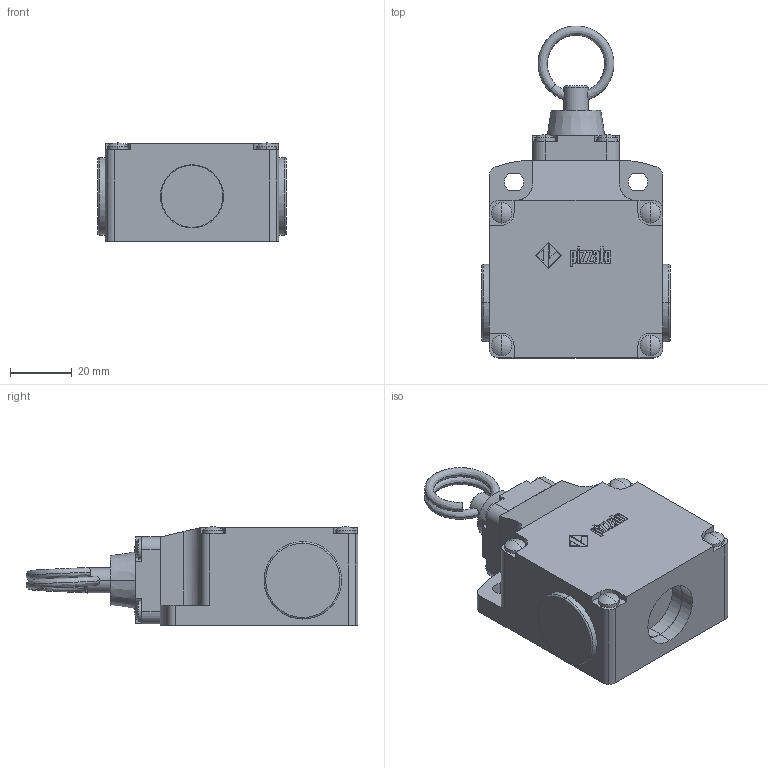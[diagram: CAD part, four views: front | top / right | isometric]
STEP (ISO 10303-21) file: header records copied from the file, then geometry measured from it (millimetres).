
FILE_DESCRIPTION (( 'STEP AP214' ), '1' );
FILE_NAME ('ZF_STEP_FL_x76_A10.step', '2014-04-10T09:06:54', ( 'utente' ), ( 'Microsoft' ), 'SwSTEP 2.0', 'SolidWorks 2013', '' );
FILE_SCHEMA (( 'AUTOMOTIVE_DESIGN' ));
Length unit declared in the file: millimetre
Products named in the file (6): ZF_STEP_VF_T76_A10; Pizzato_T76; Pizzato_Supporto_T76; Pizzato_Tappo_Protezione_PG13_M20_PG13; Pizzato_Custodia_FL; ZF_STEP_FL_x76_A10
Assembly tree (6 placements, depth 3):
  ZF_STEP_FL_x76_A10
    Pizzato_Custodia_FL
    Pizzato_Tappo_Protezione_PG13_M20_PG13  x2
    ZF_STEP_VF_T76_A10
      Pizzato_Supporto_T76
      Pizzato_T76
Bounding box: 60.8 x 107.15 x 31.8 mm (x, y, z)
Volume: 108579.9 mm3; surface area: 25401.6 mm2
Topology: 5 solids, 5 shells, 456 faces, 1170 edges, 774 vertices
Faces by surface type: plane 261, cylinder 94, bspline 77, sphere 16, torus 4, cone 4
Entity records: 17978 total; most frequent: CARTESIAN_POINT 7178, ORIENTED_EDGE 2308, DIRECTION 1962, EDGE_CURVE 1154, LINE 786, VECTOR 786, VERTEX_POINT 764, AXIS2_PLACEMENT_3D 588
